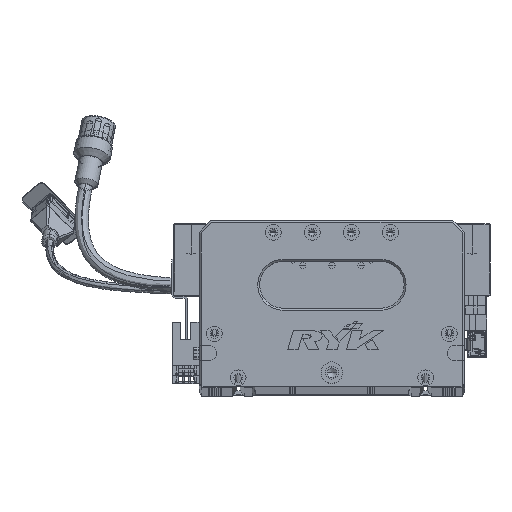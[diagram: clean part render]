
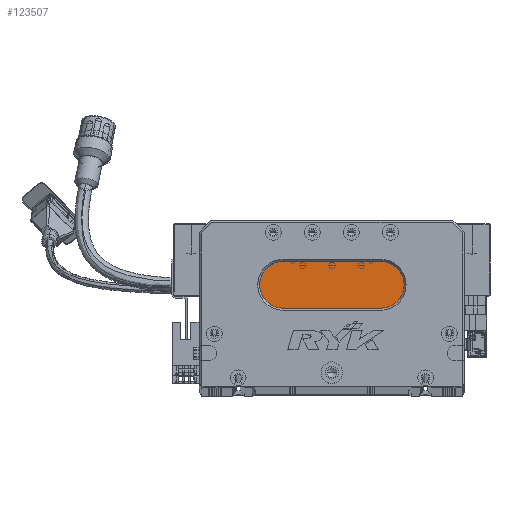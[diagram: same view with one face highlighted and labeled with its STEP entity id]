
A CAD part, top view. The second image highlights one B-rep face of the part: STEP entity #123507.
In plain terms, the highlighted planar face has unit normal (0, 0, 1) as drawn and (0, 0, -1) by its records, which use the part's own axes.
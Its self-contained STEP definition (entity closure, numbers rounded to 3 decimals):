
#1267 = EDGE_LOOP ( 'NONE', ( #89222, #83083, #121686, #61013, #11805 ) ) ;
#1653 = CARTESIAN_POINT ( 'NONE',  ( 43., 40., 13. ) ) ;
#2077 = CIRCLE ( 'NONE', #122893, 12. ) ;
#4816 = EDGE_CURVE ( 'NONE', #72041, #77300, #105787, .T. ) ;
#7162 = CARTESIAN_POINT ( 'NONE',  ( 93., 64., 13. ) ) ;
#11805 = ORIENTED_EDGE ( 'NONE', *, *, #126850, .T. ) ;
#15582 = AXIS2_PLACEMENT_3D ( 'NONE', #44967, #94619, #34935 ) ;
#21990 = CARTESIAN_POINT ( 'NONE',  ( 93., 64., 13. ) ) ;
#24516 = CARTESIAN_POINT ( 'NONE',  ( 93., 52., 13. ) ) ;
#26729 = CARTESIAN_POINT ( 'NONE',  ( 93., 52., 13. ) ) ;
#27118 = DIRECTION ( 'NONE',  ( -1., 0., 0. ) ) ;
#28302 = LINE ( 'NONE', #7162, #53340 ) ;
#33147 = CIRCLE ( 'NONE', #15582, 12. ) ;
#34935 = DIRECTION ( 'NONE',  ( -1., 0., 0. ) ) ;
#36688 = CARTESIAN_POINT ( 'NONE',  ( 43., 52., 13. ) ) ;
#42094 = VERTEX_POINT ( 'NONE', #61332 ) ;
#44967 = CARTESIAN_POINT ( 'NONE',  ( 43., 52., 13. ) ) ;
#45883 = DIRECTION ( 'NONE',  ( -1., 0., 0. ) ) ;
#53340 = VECTOR ( 'NONE', #77682, 1000. ) ;
#55485 = DIRECTION ( 'NONE',  ( 0., 0., -1. ) ) ;
#58119 = DIRECTION ( 'NONE',  ( 0., 0., -1. ) ) ;
#61013 = ORIENTED_EDGE ( 'NONE', *, *, #125889, .T. ) ;
#61332 = CARTESIAN_POINT ( 'NONE',  ( 43., 64., 13. ) ) ;
#67458 = VERTEX_POINT ( 'NONE', #123546 ) ;
#72041 = VERTEX_POINT ( 'NONE', #109519 ) ;
#77300 = VERTEX_POINT ( 'NONE', #1653 ) ;
#77656 = CARTESIAN_POINT ( 'NONE',  ( 93., 40., 13. ) ) ;
#77682 = DIRECTION ( 'NONE',  ( 1., 0., 0. ) ) ;
#78093 = DIRECTION ( 'NONE',  ( -1., 0., 0. ) ) ;
#78217 = EDGE_CURVE ( 'NONE', #123279, #72041, #2077, .T. ) ;
#78999 = FACE_OUTER_BOUND ( 'NONE', #1267, .T. ) ;
#83083 = ORIENTED_EDGE ( 'NONE', *, *, #4816, .T. ) ;
#86654 = AXIS2_PLACEMENT_3D ( 'NONE', #36688, #55485, #27118 ) ;
#89222 = ORIENTED_EDGE ( 'NONE', *, *, #78217, .T. ) ;
#90582 = AXIS2_PLACEMENT_3D ( 'NONE', #24516, #58119, #45883 ) ;
#91200 = EDGE_CURVE ( 'NONE', #77300, #67458, #99478, .T. ) ;
#94619 = DIRECTION ( 'NONE',  ( 0., 0., -1. ) ) ;
#95511 = PLANE ( 'NONE',  #90582 ) ;
#99478 = CIRCLE ( 'NONE', #86654, 12. ) ;
#105787 = LINE ( 'NONE', #77656, #124521 ) ;
#106007 = DIRECTION ( 'NONE',  ( 0., 0., -1. ) ) ;
#109519 = CARTESIAN_POINT ( 'NONE',  ( 93., 40., 13. ) ) ;
#114739 = DIRECTION ( 'NONE',  ( -1., 0., 0. ) ) ;
#121686 = ORIENTED_EDGE ( 'NONE', *, *, #91200, .T. ) ;
#122893 = AXIS2_PLACEMENT_3D ( 'NONE', #26729, #106007, #114739 ) ;
#123279 = VERTEX_POINT ( 'NONE', #21990 ) ;
#123507 = ADVANCED_FACE ( 'NONE', ( #78999 ), #95511, .T. ) ;
#123546 = CARTESIAN_POINT ( 'NONE',  ( 31., 52., 13. ) ) ;
#124521 = VECTOR ( 'NONE', #78093, 1000. ) ;
#125889 = EDGE_CURVE ( 'NONE', #67458, #42094, #33147, .T. ) ;
#126850 = EDGE_CURVE ( 'NONE', #42094, #123279, #28302, .T. ) ;
